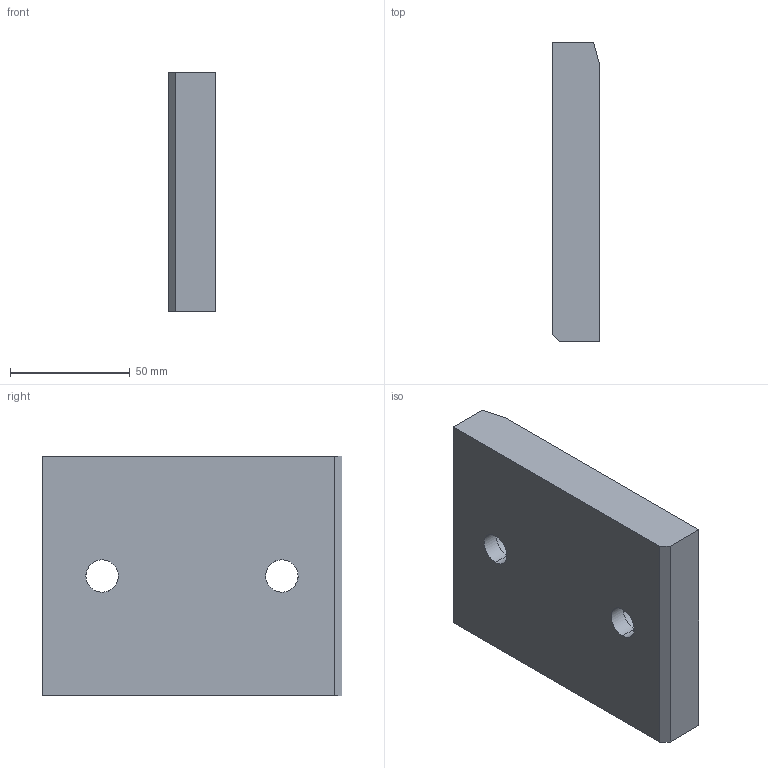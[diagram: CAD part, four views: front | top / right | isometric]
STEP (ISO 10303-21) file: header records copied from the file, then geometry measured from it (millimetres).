
FILE_DESCRIPTION(('CATIA V5 STEP Exchange'),'2;1');
FILE_NAME('C:\Users\borellobunino\Desktop\3D X SITO CF\A915\GSB_OILLESS_G22501100125\STEP-2.03\A915-100X125.stp','2019-07-14T13:22:54+00:00',('none'),('none'),'CATIA Version 5 Release 20 GA (IN-10)','CATIA V5 STEP AP203','none');
FILE_SCHEMA(('CONFIG_CONTROL_DESIGN'));
Length unit declared in the file: millimetre
Products named in the file (1): A915-100X125
Bounding box: 20 x 125 x 100 mm (x, y, z)
Volume: 237777.3 mm3; surface area: 35056 mm2
Topology: 1 solids, 1 shells, 23 faces, 73 edges, 54 vertices
Faces by surface type: plane 10, cylinder 9, torus 4
Entity records: 1057 total; most frequent: CARTESIAN_POINT 375, ORIENTED_EDGE 146, DIRECTION 103, EDGE_CURVE 73, AXIS2_PLACEMENT_3D 54, VERTEX_POINT 54, CIRCLE 30, EDGE_LOOP 29
